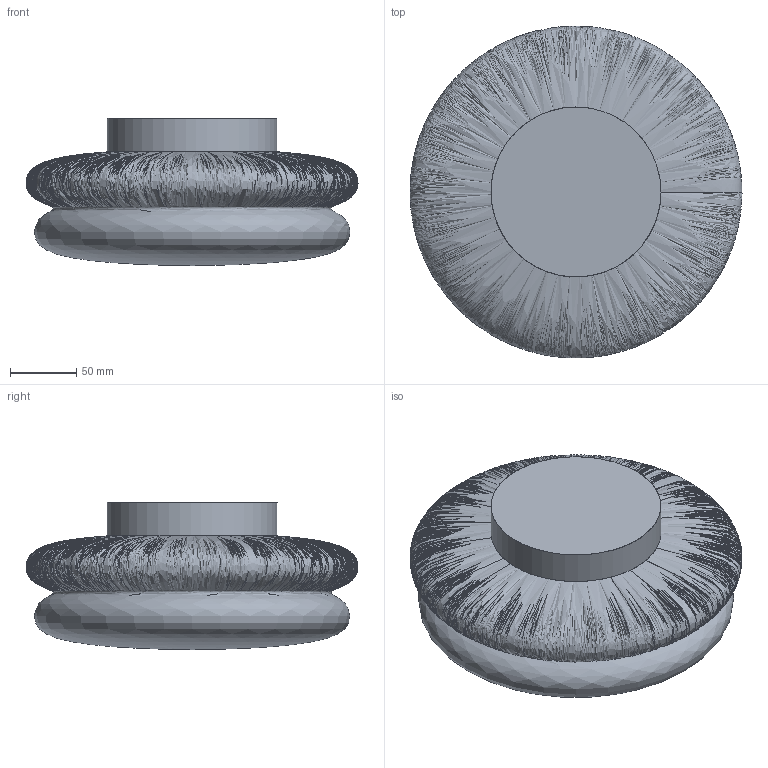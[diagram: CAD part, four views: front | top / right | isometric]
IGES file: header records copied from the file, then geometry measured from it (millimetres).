
Global section: file name: /Users/064_p/Desktop/3d data for homepage/SNOWMAN25 C.igs; native system: Rhinoceros ( Jul  7 2025 ); preprocessor: Trout Lake IGES 012 Jul  7 2025; date: 260805.075502; units: millimetre
Bounding box: 249.99 x 249.91 x 110.71 mm (x, y, z)
Surface area: 161150.3 mm2 (no closed solid volume)
Topology: 0 solids, 0 shells, 4 faces, 19 edges, 16 vertices
Faces by surface type: bspline 4
